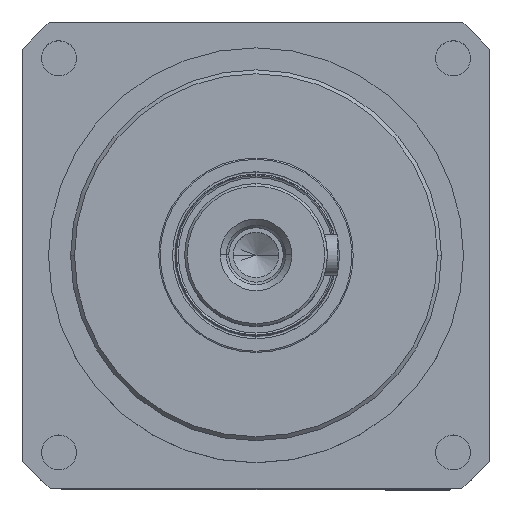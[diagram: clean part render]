
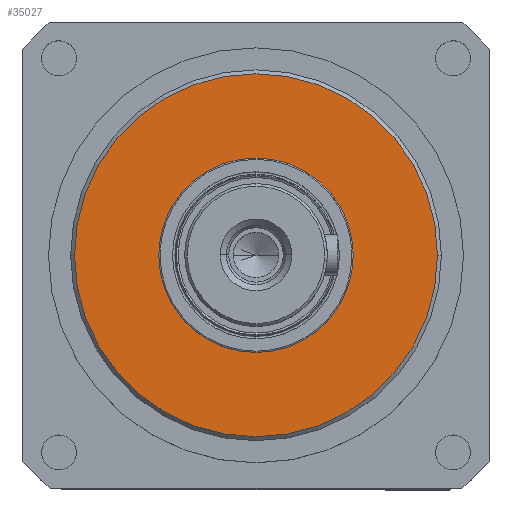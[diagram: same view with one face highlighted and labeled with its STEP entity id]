
A CAD part, top view. The second image highlights one B-rep face of the part: STEP entity #35027.
In plain terms, the highlighted planar face has unit normal (0, 0, 1).
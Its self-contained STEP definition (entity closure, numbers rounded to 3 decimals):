
#1874 = CARTESIAN_POINT ( 'NONE',  ( -70., 0., 0. ) ) ;
#4910 = EDGE_CURVE ( 'NONE', #26842, #11644, #12413, .T. ) ;
#5267 = AXIS2_PLACEMENT_3D ( 'NONE', #32393, #32355, #32307 ) ;
#6653 = CARTESIAN_POINT ( 'NONE',  ( 70., 0., 0. ) ) ;
#7531 = EDGE_CURVE ( 'NONE', #38709, #15460, #18854, .T. ) ;
#8382 = ORIENTED_EDGE ( 'NONE', *, *, #40429, .F. ) ;
#9409 = CARTESIAN_POINT ( 'NONE',  ( -37.5, 0., 0. ) ) ;
#9666 = DIRECTION ( 'NONE',  ( 0., 0., 1. ) ) ;
#10325 = DIRECTION ( 'NONE',  ( 0., 0., -1. ) ) ;
#11644 = VERTEX_POINT ( 'NONE', #9409 ) ;
#12413 = CIRCLE ( 'NONE', #23176, 37.5 ) ;
#13933 = DIRECTION ( 'NONE',  ( 1., 0., 0. ) ) ;
#14020 = DIRECTION ( 'NONE',  ( 0., 0., 1. ) ) ;
#14121 = CARTESIAN_POINT ( 'NONE',  ( 0., 0., 0. ) ) ;
#15438 = CIRCLE ( 'NONE', #32153, 70. ) ;
#15460 = VERTEX_POINT ( 'NONE', #6653 ) ;
#15482 = DIRECTION ( 'NONE',  ( 0., 0., -1. ) ) ;
#18358 = ORIENTED_EDGE ( 'NONE', *, *, #7531, .F. ) ;
#18652 = EDGE_LOOP ( 'NONE', ( #18358, #8382 ) ) ;
#18854 = CIRCLE ( 'NONE', #5267, 70. ) ;
#18943 = CIRCLE ( 'NONE', #37347, 37.5 ) ;
#21549 = FACE_OUTER_BOUND ( 'NONE', #18652, .T. ) ;
#23176 = AXIS2_PLACEMENT_3D ( 'NONE', #14121, #14020, #13933 ) ;
#23756 = ORIENTED_EDGE ( 'NONE', *, *, #4910, .F. ) ;
#25654 = ORIENTED_EDGE ( 'NONE', *, *, #29954, .F. ) ;
#26842 = VERTEX_POINT ( 'NONE', #33384 ) ;
#28321 = PLANE ( 'NONE',  #34879 ) ;
#29080 = CARTESIAN_POINT ( 'NONE',  ( 0., 0., 0. ) ) ;
#29111 = FACE_BOUND ( 'NONE', #29688, .T. ) ;
#29688 = EDGE_LOOP ( 'NONE', ( #23756, #25654 ) ) ;
#29730 = CARTESIAN_POINT ( 'NONE',  ( 0., 0., 0. ) ) ;
#29954 = EDGE_CURVE ( 'NONE', #11644, #26842, #18943, .T. ) ;
#32153 = AXIS2_PLACEMENT_3D ( 'NONE', #29730, #10325, #32864 ) ;
#32257 = DIRECTION ( 'NONE',  ( 1., 0., 0. ) ) ;
#32307 = DIRECTION ( 'NONE',  ( -1., 0., 0. ) ) ;
#32355 = DIRECTION ( 'NONE',  ( 0., 0., -1. ) ) ;
#32393 = CARTESIAN_POINT ( 'NONE',  ( 0., 0., 0. ) ) ;
#32864 = DIRECTION ( 'NONE',  ( -1., 0., 0. ) ) ;
#33384 = CARTESIAN_POINT ( 'NONE',  ( 37.5, 0., 0. ) ) ;
#34635 = CARTESIAN_POINT ( 'NONE',  ( 0., 70., 0. ) ) ;
#34879 = AXIS2_PLACEMENT_3D ( 'NONE', #34635, #15482, #37723 ) ;
#35027 = ADVANCED_FACE ( 'b', ( #29111, #21549 ), #28321, .F. ) ;
#37347 = AXIS2_PLACEMENT_3D ( 'NONE', #29080, #9666, #32257 ) ;
#37723 = DIRECTION ( 'NONE',  ( -1., 0., 0. ) ) ;
#38709 = VERTEX_POINT ( 'NONE', #1874 ) ;
#40429 = EDGE_CURVE ( 'NONE', #15460, #38709, #15438, .T. ) ;
